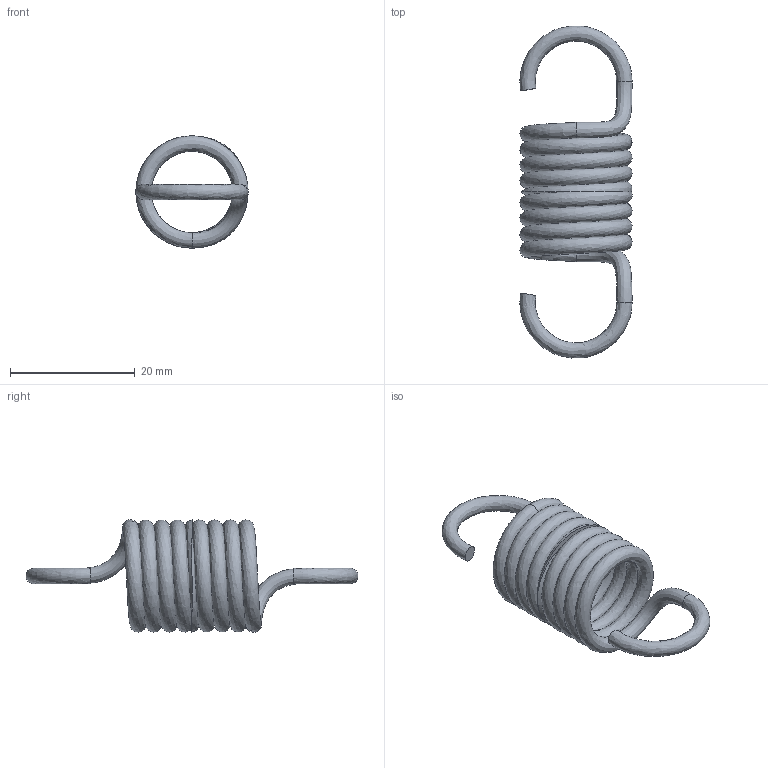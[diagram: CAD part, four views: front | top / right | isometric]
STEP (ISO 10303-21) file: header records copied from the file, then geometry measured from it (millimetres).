
FILE_DESCRIPTION(/* description */ ('237 | 10,70 | 0'),/* implementation_level */ '2;1');
FILE_NAME(/* name */ 'T11870.step',/* time_stamp */ '2026-10-05T09:58:54+02:00',/* author */ ('impex-ready.pl'),/* organization */ ('T11870'),/* preprocessor_version */ 'ST-DEVELOPER v20.1',/* originating_system */ 'Autodesk Inventor 2026',/* authorisation */ 'stal sprezynowa');
FILE_SCHEMA (('AUTOMOTIVE_DESIGN { 1 0 10303 214 3 1 1 }'));
Length unit declared in the file: millimetre
Products named in the file (1): T11870
Bounding box: 18 x 53.23 x 18 mm (x, y, z)
Volume: 2307.8 mm3; surface area: 3730.3 mm2
Topology: 1 solids, 1 shells, 10 faces, 32 edges, 20 vertices
Faces by surface type: bspline 6, plane 4
Entity records: 2854 total; most frequent: CARTESIAN_POINT 2566, ORIENTED_EDGE 64, DIRECTION 34, EDGE_CURVE 32, B_SPLINE_CURVE_WITH_KNOTS 20, VERTEX_POINT 20, AXIS2_PLACEMENT_3D 17, CIRCLE 12
